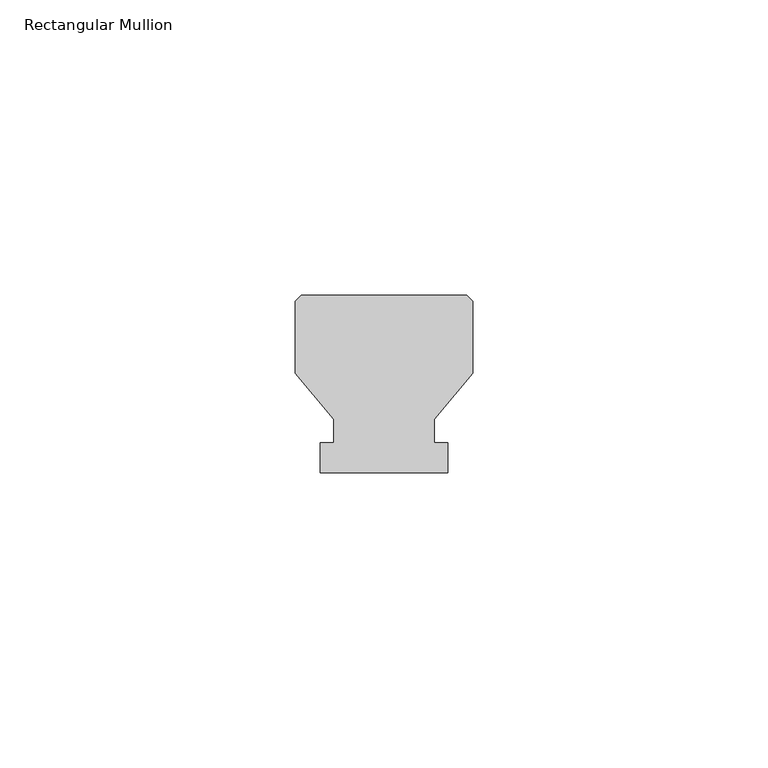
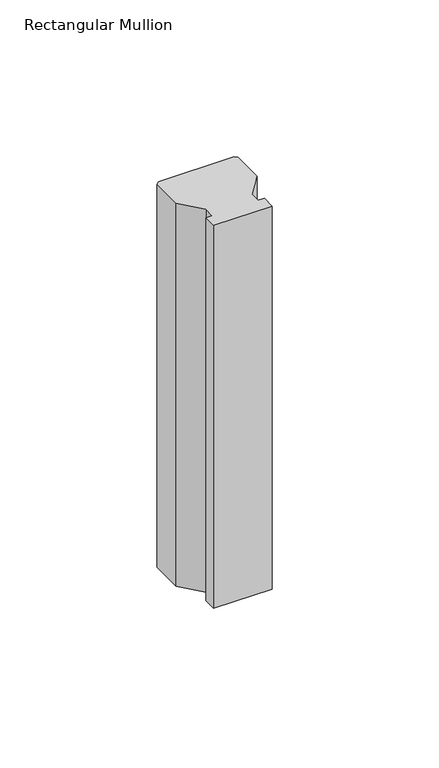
"""IFC4 building model written with IfcOpenShell, lengths in millimetres: member geometry, Rectangular Mullion : Batten_Timber_Modinex_Austratus_Grid_Fin_30x30_AlaskanYellowCedar."""

from ifc_helpers import new_model, si_unit, frame, origin, place, context, project, spatial, polyline, outline, extrude, source, transform, mapped, element, save


def rectangular_mullion_f1976eb1(model_context):
    return source(origin(), model_context, "Body", "SweptSolid", [
        extrude(outline(polyline([(-15.0, 16.8079815), (-15.0, 29.0), (-14.0, 30.0), (14.0, 30.0), (15.0, 29.0), (15.0, 16.8079815), (8.5, 9.0), (8.5, 5.0), (10.812195, 5.0), (10.812195, 0.0), (-10.812195, 0.0), (-10.812195, 5.0), (-8.5, 5.0), (-8.5, 9.0), (-15.0, 16.8079815)])), frame((0.0, 0.0, -150.0), z_axis=(0.0, 0.0, 1.0), x_axis=(1.0, 0.0, 0.0)), (0.0, 0.0, 1.0), 150.0),
    ])


if __name__ == "__main__":
    model = new_model("IFC4")
    model_context = context("Model", 3, world=origin())
    ifc_project = project(units=[si_unit("LENGTHUNIT", "METRE", prefix="MILLI")], contexts=[model_context])
    site = spatial("IfcSite", under=ifc_project)
    building = spatial("IfcBuilding", under=site)
    placement = place(None, origin())
    rectangular_mullion_shape = rectangular_mullion_f1976eb1(model_context)
    element("IfcMember", 1, ObjectType="Rectangular Mullion : Batten_Timber_Modinex_Austratus_Grid_Fin_30x30_AlaskanYellowCedar", at=placement, inside=building, context=model_context, shape_type="MappedRepresentation", body=[
        mapped(rectangular_mullion_shape, transform((0.0, 0.0, 0.0), x_axis=(1.0, 0.0, 0.0), y_axis=(0.0, 1.0, 0.0), z_axis=(0.0, 0.0, 1.0))),
    ])
    save(model, "model.ifc")
